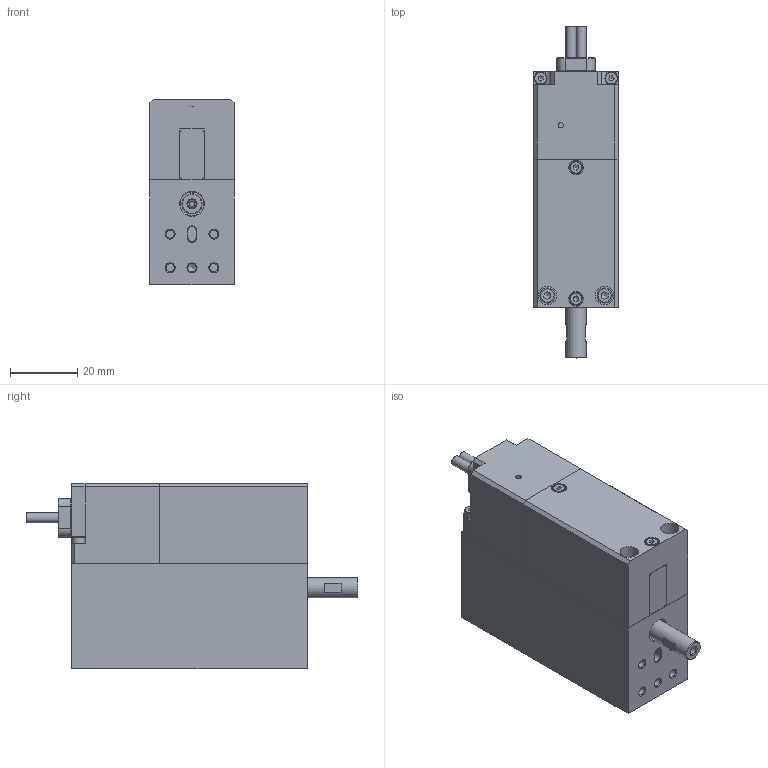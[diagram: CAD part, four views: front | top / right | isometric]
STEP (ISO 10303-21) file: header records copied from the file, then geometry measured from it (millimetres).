
FILE_DESCRIPTION((''),'2;1');
FILE_NAME('C:\SMAC-CAD\LC\LCS25-10\LCA25C-010_A.stp','2010-07-21T16:18:40',('nitakura'),(''),'Autodesk Inventor 2008','Autodesk Inventor 2008','');
FILE_SCHEMA(('AUTOMOTIVE_DESIGN { 1 0 10303 214 1 1 1 1 }'));
Length unit declared in the file: millimetre
Products named in the file (13): LCA25C-010_AEXPORTiam; 11597-01_CEXPORT; LCA25C-MAG; 140097-01_AEXPORT; 140097-02_A; 23621-02_B2; CABLE-G; Broached Socket Head Cap Screw - Metric M2x0.4 x 3; Broached Socket Head Cap Screw - Metric M2.5x0.45 x 25; LCA25C-PIS_C2; 16554-02_A; SLE20-ASSY-LCA_A1; SLE20_A
Assembly tree (17 placements, depth 3):
  LCA25C-010_AEXPORTiam
    11597-01_CEXPORT
    LCA25C-MAG
      140097-01_AEXPORT
      140097-02_A
    23621-02_B2
    CABLE-G
    Broached Socket Head Cap Screw - Metric M2x0.4 x 3  x7
    Broached Socket Head Cap Screw - Metric M2.5x0.45 x 25  x2
    LCA25C-PIS_C2
      16554-02_A
  SLE20-ASSY-LCA_A1
  SLE20_A
Bounding box: 25 x 98.5 x 55 mm (x, y, z)
Volume: 90208.4 mm3; surface area: 26371.8 mm2
Topology: 15 solids, 15 shells, 390 faces, 907 edges, 578 vertices
Faces by surface type: plane 198, bspline 94, cylinder 53, cone 28, torus 17
Full cylindrical faces by diameter (mm): 2 x7, 2.4 x1, 2.5 x2, 3 x3, 3.8 x7, 4.5 x2, 5 x1, 6 x1, 14 x1
Entity records: 8822 total; most frequent: CARTESIAN_POINT 2698, DIRECTION 1180, ORIENTED_EDGE 1062, EDGE_CURVE 531, AXIS2_PLACEMENT_3D 442, EDGE_LOOP 436, VERTEX_POINT 386, VECTOR 296
